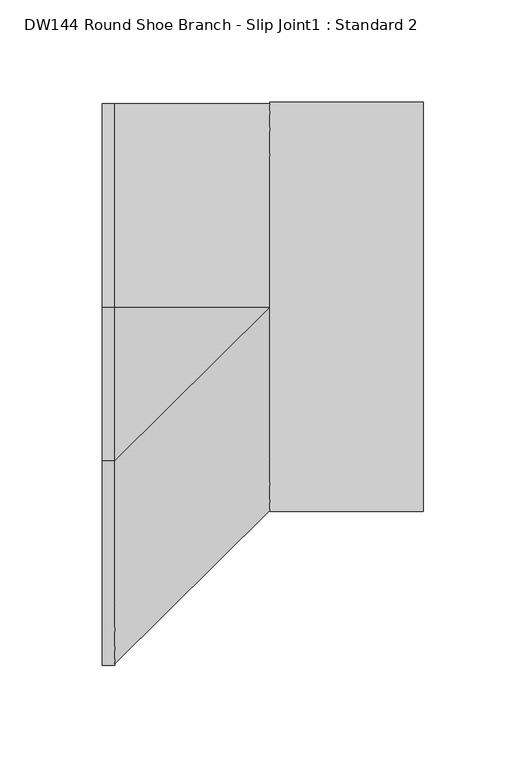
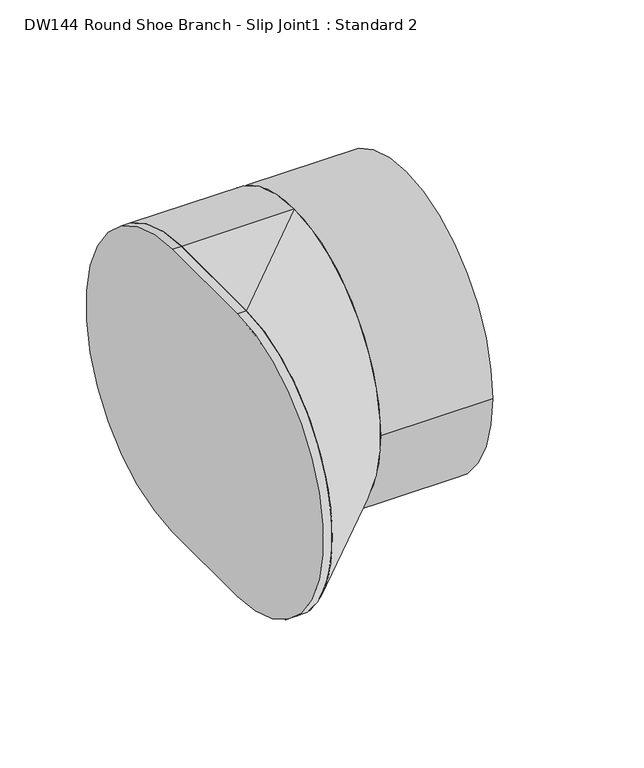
"""IFC4 building model written with IfcOpenShell, lengths in millimetres: duct fitting geometry, DW144 Round Shoe Branch - Slip Joint1 : Standard 2."""

from ifc_helpers import new_model, si_unit, point, frame, frame_2d, origin, origin_2d, place, context, project, spatial, polyline, circle_curve, trimmed, segment, composite_curve, outline, extrude, source, transform, mapped, element, save
from ifc_brep_helpers import plane_surface, cylinder_surface, extruded_surface, advanced_brep


def dw144_round_shoe_branch_slip_joint1_standard_2_aaa4e2ad(model_context):
    return source(origin(), model_context, "Body", "SolidModel", [
        extrude(outline(composite_curve([segment(trimmed(circle_curve(origin_2d(), 100.0), [point((-100.0, 0.0))], [point((100.0, 0.0))], False, "CARTESIAN"), True, "CONTINUOUS"), segment(trimmed(circle_curve(origin_2d(), 100.0), [point((100.0, 0.0))], [point((-100.0, 0.0))], False, "CARTESIAN"), True, "CONTINUOUS")], self_intersect=False)), frame((75.5656956, 0.0, 0.0), z_axis=(1.0, 0.0, 0.0), x_axis=(0.0, 1.0, 0.0)), (0.0, 0.0, 1.0), 75.0),
        advanced_brep(
        [(75.5656956, 0.0, -100.0), (75.5656956, 0.0, 100.0), (0.0, 0.0, -100.0), (0.0, -75.0, -100.0), (0.0, -75.0, 100.0), (0.0, 0.0, 100.0)],
        [
            (0, 1, circle_curve(frame((75.5656956, 0.0, 0.0), z_axis=(1.0, 0.0, 0.0), x_axis=(0.0, 1.0, 0.0)), 100.0)),
            (1, 0, circle_curve(frame((75.5656956, 0.0, 0.0), z_axis=(1.0, 0.0, 0.0), x_axis=(0.0, 1.0, 0.0)), 100.0)),
            (2, 3),
            (3, 4, circle_curve(frame((0.0, -75.0, 0.0), z_axis=(-1.0, 0.0, 0.0), x_axis=(0.0, 1.0, 0.0)), 100.0)),
            (4, 5),
            (5, 2, circle_curve(frame((0.0, 0.0, 0.0), z_axis=(-1.0, 0.0, 0.0), x_axis=(0.0, 1.0, 0.0)), 100.0)),
            (5, 1),
            (0, 2),
            (4, 1),
            (3, 0),
        ],
        [
            plane_surface(frame((75.5656956, 0.0, 0.0), z_axis=(1.0, 0.0, 0.0), x_axis=(0.0, 1.0, 0.0))),
            plane_surface(frame((0.0, -37.5, 0.0), z_axis=(-1.0, 0.0, 0.0), x_axis=(0.0, 1.0, 0.0))),
            cylinder_surface(frame((0.0, 0.0, 0.0), z_axis=(1.0, 0.0, 0.0), x_axis=(0.0, 1.0, 0.0)), 100.0),
            plane_surface(frame((0.0, -37.5, 100.0), z_axis=(0.0, 0.0, 1.0), x_axis=(0.0, -1.0, 0.0))),
            extruded_surface(trimmed(circle_curve(frame((0.0, -75.0, 0.0), z_axis=(1.0, 0.0, 0.0), x_axis=(0.0, 1.0, 0.0)), 100.0), [point((0.0, -75.0, 100.0))], [point((0.0, -75.0, -100.0))], True, "CARTESIAN"), (75.5656956, 75.0, 0.0), 106.46677581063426),
            plane_surface(frame((0.0, -37.5, -100.0), z_axis=(0.0, 0.0, -1.0), x_axis=(0.0, 1.0, 0.0))),
        ],
        [
            (0, [[1, 2]]),
            (1, [[3, 4, 5, 6]]),
            (2, [[-6, 7, -1, 8]]),
            (3, [[-5, 9, -7]]),
            (4, [[-4, 10, -2, -9]]),
            (5, [[-3, -8, -10]]),
        ],
    ),
        extrude(outline(composite_curve([segment(polyline([(0.0, -100.0), (-75.0, -100.0)]), True, "CONTINUOUS"), segment(trimmed(circle_curve(frame_2d((-75.0, 0.0)), 100.0), [point((-75.0, -100.0))], [point((-75.0, 100.0))], False, "CARTESIAN"), True, "CONTINUOUS"), segment(polyline([(-75.0, 100.0), (0.0, 100.0)]), True, "CONTINUOUS"), segment(trimmed(circle_curve(origin_2d(), 100.0), [point((0.0, 100.0))], [point((0.0, -100.0))], False, "CARTESIAN"), True, "CONTINUOUS")], self_intersect=False)), frame((-6.096, 0.0, 0.0), z_axis=(1.0, 0.0, 0.0), x_axis=(0.0, 1.0, 0.0)), (0.0, 0.0, 1.0), 6.096),
    ])


if __name__ == "__main__":
    model = new_model("IFC4")
    model_context = context("Model", 3, world=origin())
    ifc_project = project(units=[si_unit("LENGTHUNIT", "METRE", prefix="MILLI")], contexts=[model_context])
    site = spatial("IfcSite", under=ifc_project)
    building = spatial("IfcBuilding", under=site)
    placement = place(None, origin())
    dw144_round_shoe_branch_slip_joint1_standard_2_shape = dw144_round_shoe_branch_slip_joint1_standard_2_aaa4e2ad(model_context)
    element("IfcDuctFitting", 1, ObjectType="DW144 Round Shoe Branch - Slip Joint1 : Standard 2", at=placement, inside=building, context=model_context, shape_type="MappedRepresentation", body=[
        mapped(dw144_round_shoe_branch_slip_joint1_standard_2_shape, transform((0.0, 0.0, 0.0), x_axis=(1.0, 0.0, 0.0), y_axis=(0.0, 1.0, 0.0), z_axis=(0.0, 0.0, 1.0))),
    ])
    save(model, "model.ifc")
